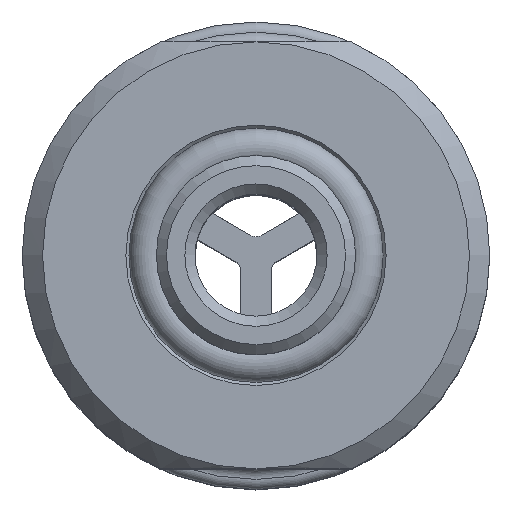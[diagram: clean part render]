
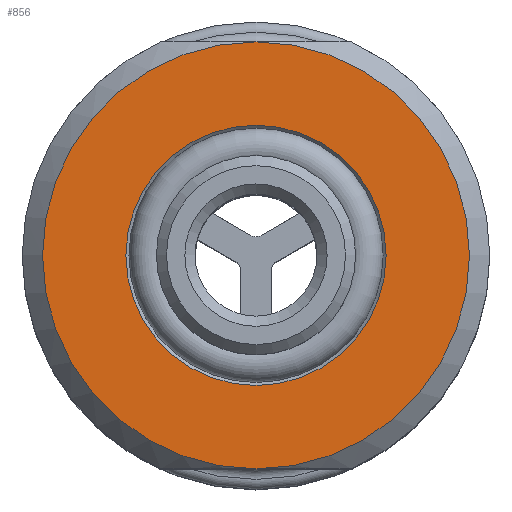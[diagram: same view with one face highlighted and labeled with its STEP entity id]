
A CAD part, top view. The second image highlights one B-rep face of the part: STEP entity #856.
In plain terms, the highlighted planar face has unit normal (0, 0, 1).
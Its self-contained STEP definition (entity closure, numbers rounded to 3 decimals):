
#856 = ADVANCED_FACE( '', ( #2336, #2337 ), #2338, .F. );
#2336 = FACE_OUTER_BOUND( '', #6959, .T. );
#2337 = FACE_BOUND( '', #6960, .T. );
#2338 = PLANE( '', #6961 );
#6959 = EDGE_LOOP( '', ( #11594, #11595 ) );
#6960 = EDGE_LOOP( '', ( #11596 ) );
#6961 = AXIS2_PLACEMENT_3D( '', #11597, #11598, #11599 );
#11594 = ORIENTED_EDGE( '', *, *, #13346, .F. );
#11595 = ORIENTED_EDGE( '', *, *, #13315, .F. );
#11596 = ORIENTED_EDGE( '', *, *, #13350, .T. );
#11597 = CARTESIAN_POINT( '', ( -6.4, 0., 3.683 ) );
#11598 = DIRECTION( '', ( 0., 0., -1. ) );
#11599 = DIRECTION( '', ( -1., 0., 0. ) );
#13315 = EDGE_CURVE( '', #15977, #15979, #15980, .T. );
#13346 = EDGE_CURVE( '', #15979, #15977, #16034, .T. );
#13350 = EDGE_CURVE( '', #16038, #16038, #16039, .T. );
#15977 = VERTEX_POINT( '', #25271 );
#15979 = VERTEX_POINT( '', #25280 );
#15980 = CIRCLE( '', #25281, 10.5 );
#16034 = CIRCLE( '', #25381, 10.5 );
#16038 = VERTEX_POINT( '', #25385 );
#16039 = CIRCLE( '', #25386, 6.4 );
#25271 = CARTESIAN_POINT( '', ( 0., -10.5, 3.683 ) );
#25280 = CARTESIAN_POINT( '', ( 0., 10.5, 3.683 ) );
#25281 = AXIS2_PLACEMENT_3D( '', #26892, #26893, #26894 );
#25381 = AXIS2_PLACEMENT_3D( '', #26930, #26931, #26932 );
#25385 = CARTESIAN_POINT( '', ( -6.4, 0., 3.683 ) );
#25386 = AXIS2_PLACEMENT_3D( '', #26942, #26943, #26944 );
#26892 = CARTESIAN_POINT( '', ( 0., 0., 3.683 ) );
#26893 = DIRECTION( '', ( 0., 0., -1. ) );
#26894 = DIRECTION( '', ( -1., 0., 0. ) );
#26930 = CARTESIAN_POINT( '', ( 0., 0., 3.683 ) );
#26931 = DIRECTION( '', ( 0., 0., -1. ) );
#26932 = DIRECTION( '', ( -1., 0., 0. ) );
#26942 = CARTESIAN_POINT( '', ( 0., 0., 3.683 ) );
#26943 = DIRECTION( '', ( 0., 0., -1. ) );
#26944 = DIRECTION( '', ( -1., 0., 0. ) );
